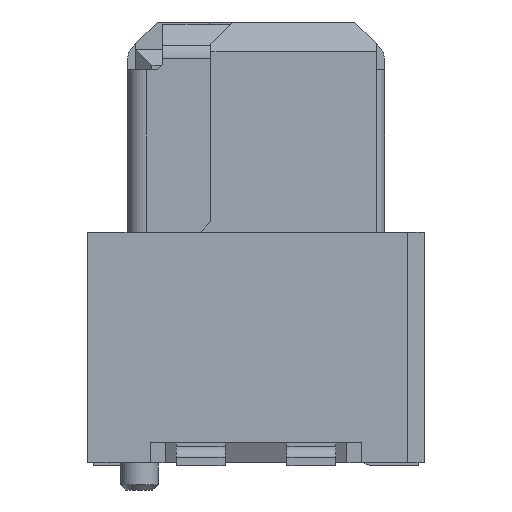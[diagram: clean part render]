
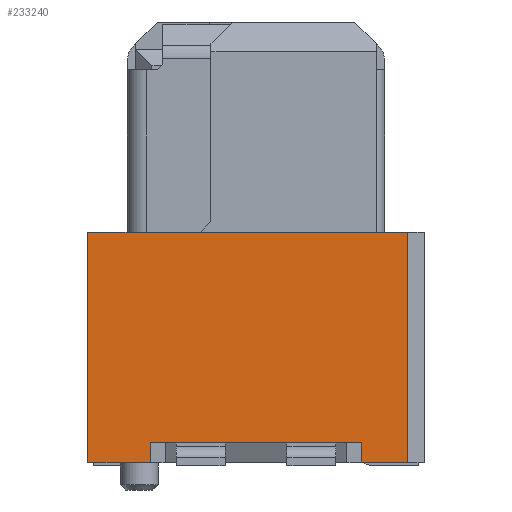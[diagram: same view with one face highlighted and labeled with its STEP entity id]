
A CAD part, front view. The second image highlights one B-rep face of the part: STEP entity #233240.
In plain terms, the highlighted planar face has unit normal (0, -1, 0) as drawn and (0, 0, -1) by its records, which use the part's own axes.
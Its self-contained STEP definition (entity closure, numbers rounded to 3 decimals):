
#228930=CARTESIAN_POINT('',(2.8,-4.25,-2.81));
#228940=VERTEX_POINT('',#228930);
#228970=CARTESIAN_POINT('',(0.,-4.25,-2.81));
#228980=DIRECTION('',(-1.,0.,0.));
#228990=VECTOR('',#228980,1.);
#229000=LINE('',#228970,#228990);
#229010=CARTESIAN_POINT('',(-3.1,-4.25,-2.81));
#229020=VERTEX_POINT('',#229010);
#229030=EDGE_CURVE('',#228940,#229020,#229000,.T.);
#229640=CARTESIAN_POINT('',(1.95,0.,-2.81));
#229650=VERTEX_POINT('',#229640);
#229680=CARTESIAN_POINT('',(0.,0.,-2.81));
#229690=DIRECTION('',(-1.,0.,0.));
#229700=VECTOR('',#229690,1.);
#229710=LINE('',#229680,#229700);
#229720=CARTESIAN_POINT('',(2.8,0.,-2.81));
#229730=VERTEX_POINT('',#229720);
#229740=EDGE_CURVE('',#229730,#229650,#229710,.T.);
#230040=CARTESIAN_POINT('',(-3.1,0.,-2.81));
#230050=VERTEX_POINT('',#230040);
#230080=CARTESIAN_POINT('',(0.,0.,-2.81));
#230090=DIRECTION('',(-1.,0.,0.));
#230100=VECTOR('',#230090,1.);
#230110=LINE('',#230080,#230100);
#230120=CARTESIAN_POINT('',(-1.95,0.,-2.81));
#230130=VERTEX_POINT('',#230120);
#230140=EDGE_CURVE('',#230130,#230050,#230110,.T.);
#231300=CARTESIAN_POINT('',(-1.95,0.,-2.81));
#231310=DIRECTION('',(0.,-1.,0.));
#231320=VECTOR('',#231310,1.);
#231330=LINE('',#231300,#231320);
#231340=CARTESIAN_POINT('',(-1.95,-0.37,-2.81));
#231350=VERTEX_POINT('',#231340);
#231360=EDGE_CURVE('',#230130,#231350,#231330,.T.);
#232820=CARTESIAN_POINT('',(-3.1,0.,-2.81));
#232830=DIRECTION('',(0.,1.,0.));
#232840=VECTOR('',#232830,1.);
#232850=LINE('',#232820,#232840);
#232860=EDGE_CURVE('',#229020,#230050,#232850,.T.);
#232920=CARTESIAN_POINT('',(0.62,-4.94,-2.81));
#232930=DIRECTION('',(0.,0.,-1.));
#232940=DIRECTION('',(1.,0.,0.));
#232950=AXIS2_PLACEMENT_3D('',#232920,#232930,#232940);
#232960=PLANE('',#232950);
#232970=CARTESIAN_POINT('',(2.8,-2.125,-2.81));
#232980=DIRECTION('',(0.,-1.,0.));
#232990=VECTOR('',#232980,1.);
#233000=LINE('',#232970,#232990);
#233010=EDGE_CURVE('',#229730,#228940,#233000,.T.);
#233020=ORIENTED_EDGE('',*,*,#233010,.T.);
#233030=ORIENTED_EDGE('',*,*,#229740,.F.);
#233040=CARTESIAN_POINT('',(1.95,0.,-2.81));
#233050=DIRECTION('',(0.,-1.,0.));
#233060=VECTOR('',#233050,1.);
#233070=LINE('',#233040,#233060);
#233080=CARTESIAN_POINT('',(1.95,-0.37,-2.81));
#233090=VERTEX_POINT('',#233080);
#233100=EDGE_CURVE('',#229650,#233090,#233070,.T.);
#233110=ORIENTED_EDGE('',*,*,#233100,.F.);
#233120=CARTESIAN_POINT('',(-3.1,-0.37,-2.81));
#233130=DIRECTION('',(1.,0.,0.));
#233140=VECTOR('',#233130,1.);
#233150=LINE('',#233120,#233140);
#233160=EDGE_CURVE('',#231350,#233090,#233150,.T.);
#233170=ORIENTED_EDGE('',*,*,#233160,.T.);
#233180=ORIENTED_EDGE('',*,*,#231360,.T.);
#233190=ORIENTED_EDGE('',*,*,#230140,.F.);
#233200=ORIENTED_EDGE('',*,*,#232860,.T.);
#233210=ORIENTED_EDGE('',*,*,#229030,.T.);
#233220=EDGE_LOOP('',(#233210,#233200,#233190,#233180,#233170,#233110,
#233030,#233020));
#233230=FACE_OUTER_BOUND('',#233220,.T.);
#233240=ADVANCED_FACE('',(#233230),#232960,.T.);
